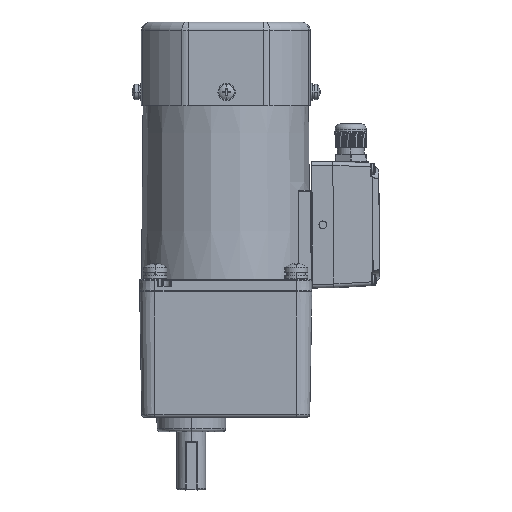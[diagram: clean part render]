
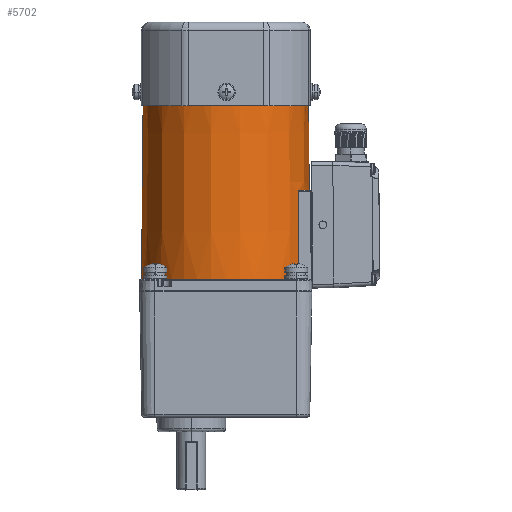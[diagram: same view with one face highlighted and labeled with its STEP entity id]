
A CAD part, front view. The second image highlights one B-rep face of the part: STEP entity #5702.
In plain terms, the highlighted conical face has half-angle 0.5 degrees and reference radius 43.555 mm.
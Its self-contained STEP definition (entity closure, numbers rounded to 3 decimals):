
#932 = ORIENTED_EDGE ( 'NONE', *, *, #12865, .T. ) ;
#1183 = CARTESIAN_POINT ( 'NONE',  ( -44., 0., 7. ) ) ;
#1610 = CIRCLE ( 'NONE', #2381, 44. ) ;
#2381 = AXIS2_PLACEMENT_3D ( 'NONE', #36734, #10850, #2950 ) ;
#2719 = CARTESIAN_POINT ( 'NONE',  ( 37.95, -21.454, 53.469 ) ) ;
#2883 = CARTESIAN_POINT ( 'NONE',  ( 0., 0., 58. ) ) ;
#2950 = DIRECTION ( 'NONE',  ( -1., 0., 0. ) ) ;
#2992 = DIRECTION ( 'NONE',  ( 0., 0., 1. ) ) ;
#3344 = VECTOR ( 'NONE', #29597, 1000. ) ;
#3437 = CARTESIAN_POINT ( 'NONE',  ( 38.038, -21.297, 53.5 ) ) ;
#4983 = AXIS2_PLACEMENT_3D ( 'NONE', #2883, #10312, #29528 ) ;
#5199 = CARTESIAN_POINT ( 'NONE',  ( 38.038, -21.297, 53.5 ) ) ;
#5568 = ORIENTED_EDGE ( 'NONE', *, *, #48003, .T. ) ;
#5702 = ADVANCED_FACE ( 'NONE', ( #37160 ), #26261, .T. ) ;
#6126 = VECTOR ( 'NONE', #22144, 1000. ) ;
#6138 = CARTESIAN_POINT ( 'NONE',  ( 37.95, -21.731, 37.802 ) ) ;
#6353 = VERTEX_POINT ( 'NONE', #5199 ) ;
#6421 = CARTESIAN_POINT ( 'NONE',  ( -43.11, 0., 109. ) ) ;
#6640 = ORIENTED_EDGE ( 'NONE', *, *, #14121, .T. ) ;
#6888 = CARTESIAN_POINT ( 'NONE',  ( 37.892, -21.559, 53.348 ) ) ;
#6928 = CARTESIAN_POINT ( 'NONE',  ( 0., 0., 109. ) ) ;
#8116 = DIRECTION ( 'NONE',  ( 0., 0., 1. ) ) ;
#8154 = B_SPLINE_CURVE_WITH_KNOTS ( 'NONE', 3,
 ( #32314, #17029, #6138, #36474 ),
 .UNSPECIFIED., .F., .F.,
 ( 4, 4 ),
 ( 0., 1. ),
 .UNSPECIFIED. ) ;
#8868 = AXIS2_PLACEMENT_3D ( 'NONE', #6928, #2992, #40977 ) ;
#9861 = ORIENTED_EDGE ( 'NONE', *, *, #41113, .T. ) ;
#10130 = VERTEX_POINT ( 'NONE', #43800 ) ;
#10312 = DIRECTION ( 'NONE',  ( 0., 0., -1. ) ) ;
#10850 = DIRECTION ( 'NONE',  ( 0., 0., 1. ) ) ;
#10867 = CARTESIAN_POINT ( 'NONE',  ( 0., 0., 53.5 ) ) ;
#12816 = EDGE_LOOP ( 'NONE', ( #29809, #16312, #6640, #17382, #9861, #932, #5568 ) ) ;
#12865 = EDGE_CURVE ( 'NONE', #10130, #6353, #36836, .T. ) ;
#12889 = EDGE_CURVE ( 'NONE', #28437, #44719, #1610, .T. ) ;
#14121 = EDGE_CURVE ( 'NONE', #21659, #28437, #25419, .T. ) ;
#15237 = LINE ( 'NONE', #44345, #6126 ) ;
#16312 = ORIENTED_EDGE ( 'NONE', *, *, #32304, .F. ) ;
#17029 = CARTESIAN_POINT ( 'NONE',  ( 38.028, -21.866, 22.401 ) ) ;
#17145 = CARTESIAN_POINT ( 'NONE',  ( -43.11, 0., 109. ) ) ;
#17205 = CARTESIAN_POINT ( 'NONE',  ( 43.11, 0., 109. ) ) ;
#17382 = ORIENTED_EDGE ( 'NONE', *, *, #12889, .T. ) ;
#19990 = CARTESIAN_POINT ( 'NONE',  ( 43.594, 0., 53.5 ) ) ;
#21242 = VERTEX_POINT ( 'NONE', #17205 ) ;
#21659 = VERTEX_POINT ( 'NONE', #17145 ) ;
#22144 = DIRECTION ( 'NONE',  ( 0.009, 0., -1. ) ) ;
#22205 = DIRECTION ( 'NONE',  ( 0.873, -0.489, 0. ) ) ;
#24807 = VERTEX_POINT ( 'NONE', #19990 ) ;
#25413 = CARTESIAN_POINT ( 'NONE',  ( 37.903, -21.538, 53.379 ) ) ;
#25419 = LINE ( 'NONE', #6421, #3344 ) ;
#26261 = CONICAL_SURFACE ( 'NONE', #4983, 43.555, 0.009 ) ;
#28437 = VERTEX_POINT ( 'NONE', #1183 ) ;
#28581 = CIRCLE ( 'NONE', #8868, 43.11 ) ;
#29114 = CARTESIAN_POINT ( 'NONE',  ( 37.872, -21.597, 53.203 ) ) ;
#29355 = CARTESIAN_POINT ( 'NONE',  ( 37.909, -21.528, 53.393 ) ) ;
#29528 = DIRECTION ( 'NONE',  ( 1., 0., 0. ) ) ;
#29597 = DIRECTION ( 'NONE',  ( -0.009, 0., -1. ) ) ;
#29809 = ORIENTED_EDGE ( 'NONE', *, *, #37099, .F. ) ;
#32304 = EDGE_CURVE ( 'NONE', #21659, #21242, #28581, .T. ) ;
#32314 = CARTESIAN_POINT ( 'NONE',  ( 38.105, -22., 7. ) ) ;
#34670 = AXIS2_PLACEMENT_3D ( 'NONE', #10867, #8116, #22205 ) ;
#35737 = CARTESIAN_POINT ( 'NONE',  ( 38.105, -22., 7. ) ) ;
#36274 = CARTESIAN_POINT ( 'NONE',  ( 37.991, -21.382, 53.5 ) ) ;
#36474 = CARTESIAN_POINT ( 'NONE',  ( 37.872, -21.597, 53.203 ) ) ;
#36734 = CARTESIAN_POINT ( 'NONE',  ( 0., 0., 7. ) ) ;
#36836 = B_SPLINE_CURVE_WITH_KNOTS ( 'NONE', 3,
 ( #29114, #40685, #40449, #43909, #6888, #25413, #29355, #2719, #36274, #3437 ),
 .UNSPECIFIED., .F., .F.,
 ( 4, 2, 2, 2, 4 ),
 ( 0., 0.25, 0.375, 0.5, 1. ),
 .UNSPECIFIED. ) ;
#37099 = EDGE_CURVE ( 'NONE', #21242, #24807, #15237, .T. ) ;
#37160 = FACE_OUTER_BOUND ( 'NONE', #12816, .T. ) ;
#40449 = CARTESIAN_POINT ( 'NONE',  ( 37.876, -21.589, 53.28 ) ) ;
#40685 = CARTESIAN_POINT ( 'NONE',  ( 37.872, -21.596, 53.243 ) ) ;
#40977 = DIRECTION ( 'NONE',  ( -1., 0., 0. ) ) ;
#41113 = EDGE_CURVE ( 'NONE', #44719, #10130, #8154, .T. ) ;
#43330 = CIRCLE ( 'NONE', #34670, 43.594 ) ;
#43800 = CARTESIAN_POINT ( 'NONE',  ( 37.872, -21.597, 53.203 ) ) ;
#43909 = CARTESIAN_POINT ( 'NONE',  ( 37.887, -21.568, 53.332 ) ) ;
#44345 = CARTESIAN_POINT ( 'NONE',  ( 43.11, 0., 109. ) ) ;
#44719 = VERTEX_POINT ( 'NONE', #35737 ) ;
#48003 = EDGE_CURVE ( 'NONE', #6353, #24807, #43330, .T. ) ;
